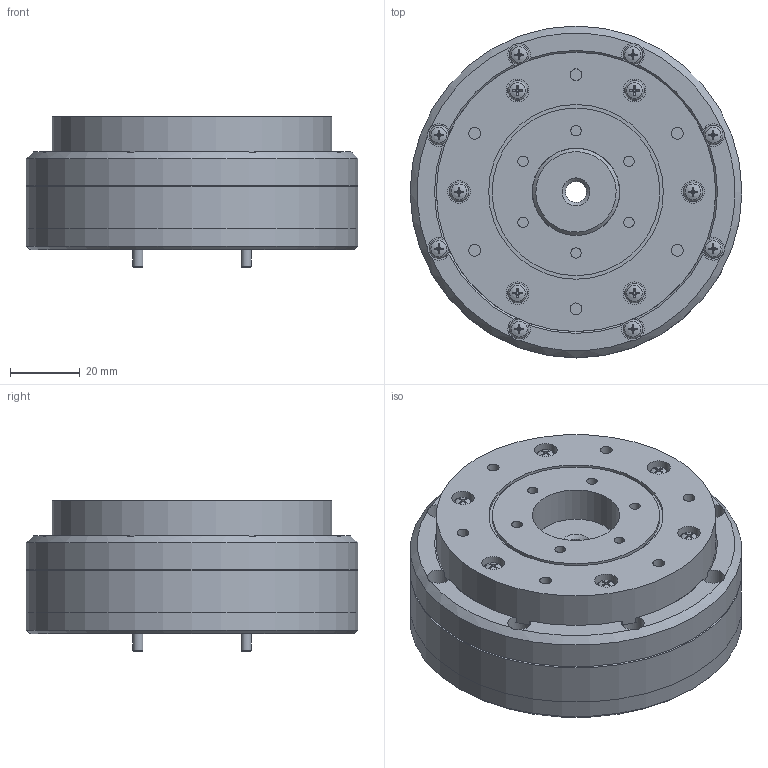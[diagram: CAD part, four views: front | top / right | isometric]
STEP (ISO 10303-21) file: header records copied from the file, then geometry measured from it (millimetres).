
FILE_DESCRIPTION(/* description */ (''),/* implementation_level */ '2;1');
FILE_NAME(/* name */ 'Cycloidal-Drive-3D.step',/* time_stamp */ '2026-07-10T14:47:53-07:00',/* author */ (''),/* organization */ (''),/* preprocessor_version */ 'ST-DEVELOPER v20.1',/* originating_system */ 'Autodesk Translation Framework v15.8.0.0',/* authorisation */ '');
FILE_SCHEMA (('AUTOMOTIVE_DESIGN { 1 0 10303 214 3 1 1 }'));
Length unit declared in the file: millimetre
Products named in the file (15): 2026-07-09-09-32-42-774; 2026-04-06-09-27-54-034; 2026-04-06-09-19-49-010; 2026-05-31-07-56-04-597; 2026-05-21-13-35-56-432; 2026-05-21-13-36-00-798; 2026-06-09-09-59-11-804; TOEI - M3 X 3.43 Stainless Steel Plain; ISO 7046-2 - M3x10 - H Steel 4.6 Plain; 2026-03-16-09-25-37-020; 2026-07-09-10-35-24-589; 2026-07-09-10-35-34-384; ISO 7045 - M3 x 12 - H Steel 4.6 Plain; ISO 7045 - M3 x 8 - H Steel 4.6 Plain; ISO 7045 - M3 x 10 - H Steel 4.6 Plain
Assembly tree (77 placements, depth 3):
  2026-07-09-09-32-42-774
    2026-04-06-09-27-54-034
      2026-04-06-09-19-49-010
      ISO 7046-2 - M3x10 - H Steel 4.6 Plain  x6
    2026-05-31-07-56-04-597
      2026-05-21-13-35-56-432
      2026-05-21-13-36-00-798
      2026-06-09-09-59-11-804
      TOEI - M3 X 3.43 Stainless Steel Plain  x30
      ISO 7045 - M3 x 10 - H Steel 4.6 Plain  x8
      ISO 7046-2 - M3x10 - H Steel 4.6 Plain  x8
    2026-03-16-09-25-37-020
      2026-07-09-10-35-24-589
      2026-07-09-10-35-34-384
    ISO 7045 - M3 x 12 - H Steel 4.6 Plain  x6
    ISO 7045 - M3 x 8 - H Steel 4.6 Plain  x4
    ISO 7045 - M3 x 10 - H Steel 4.6 Plain  x6
Bounding box: 95 x 95 x 43 mm (x, y, z)
Volume: 179475.6 mm3; surface area: 85286.8 mm2
Topology: 76 solids, 76 shells, 2039 faces, 4437 edges, 2802 vertices
Faces by surface type: plane 882, cylinder 656, cone 415, torus 62, sphere 24
Full cylindrical faces by diameter (mm): 2.529 x30, 2.729 x24, 2.75 x14, 2.927 x38, 3 x6, 3.4 x12, 3.5 x32, 3.99 x60, 4.37 x60, 4.5 x22, 5 x30, 5.1 x6, 5.2 x30, 5.5 x14, 6 x1, 6.5 x14, 7 x4, 8.5 x6, 22.2 x1, 25 x2, 48 x3, 50 x3, 56 x1, 58.5 x1, 80 x1, 91.8 x1, 92.2 x1, 95 x3
Entity records: 19343 total; most frequent: DIRECTION 3649, CARTESIAN_POINT 3315, ORIENTED_EDGE 2798, AXIS2_PLACEMENT_3D 1560, EDGE_CURVE 1399, EDGE_LOOP 893, VERTEX_POINT 886, CIRCLE 778
